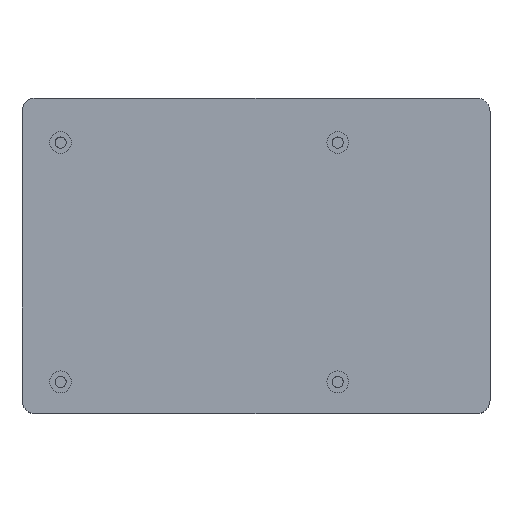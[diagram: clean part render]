
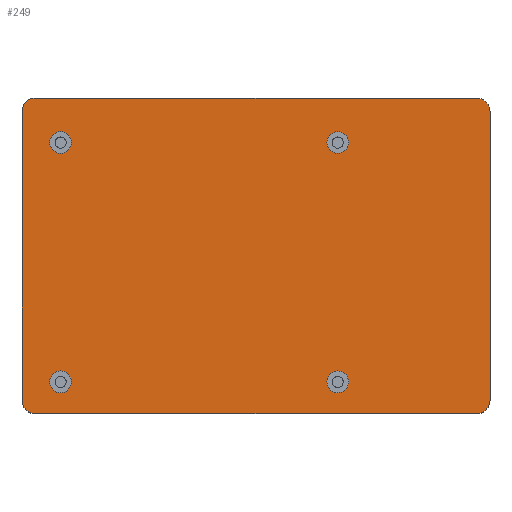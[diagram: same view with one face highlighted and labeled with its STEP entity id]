
A CAD part, top view. The second image highlights one B-rep face of the part: STEP entity #249.
In plain terms, the highlighted planar face has unit normal (0, 0, 1).
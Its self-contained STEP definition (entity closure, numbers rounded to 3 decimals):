
#42=B_SPLINE_CURVE_WITH_KNOTS('',3,(#2635,#2636,#2637,#2638),
 .UNSPECIFIED.,.F.,.F.,(4,4),(0.,1.),.UNSPECIFIED.);
#52=(
BOUNDED_CURVE()
B_SPLINE_CURVE(3,(#2581,#2582,#2583,#2584),.UNSPECIFIED.,.F.,.F.)
B_SPLINE_CURVE_WITH_KNOTS((4,4),(0.,1.),.UNSPECIFIED.)
CURVE()
GEOMETRIC_REPRESENTATION_ITEM()
RATIONAL_B_SPLINE_CURVE((0.586,0.471,0.471,
0.586))
REPRESENTATION_ITEM('')
);
#62=FACE_BOUND('',#505,.T.);
#63=FACE_BOUND('',#506,.T.);
#64=FACE_BOUND('',#507,.T.);
#65=FACE_BOUND('',#508,.T.);
#66=FACE_BOUND('',#509,.T.);
#249=ADVANCED_FACE('',(#62,#63,#64,#65,#66),#344,.T.);
#344=PLANE('',#1746);
#505=EDGE_LOOP('',(#912,#913,#914,#915,#916,#917,#918,#919));
#506=EDGE_LOOP('',(#920));
#507=EDGE_LOOP('',(#921));
#508=EDGE_LOOP('',(#922));
#509=EDGE_LOOP('',(#923));
#676=CIRCLE('',#1734,2.8);
#677=CIRCLE('',#1736,2.8);
#678=CIRCLE('',#1739,2.8);
#679=CIRCLE('',#1742,2.25);
#680=CIRCLE('',#1743,2.25);
#681=CIRCLE('',#1744,2.25);
#682=CIRCLE('',#1745,2.25);
#912=ORIENTED_EDGE('',*,*,#1380,.F.);
#913=ORIENTED_EDGE('',*,*,#1375,.F.);
#914=ORIENTED_EDGE('',*,*,#1373,.F.);
#915=ORIENTED_EDGE('',*,*,#1371,.F.);
#916=ORIENTED_EDGE('',*,*,#1381,.F.);
#917=ORIENTED_EDGE('',*,*,#1368,.F.);
#918=ORIENTED_EDGE('',*,*,#1366,.F.);
#919=ORIENTED_EDGE('',*,*,#1342,.F.);
#920=ORIENTED_EDGE('',*,*,#1382,.F.);
#921=ORIENTED_EDGE('',*,*,#1383,.F.);
#922=ORIENTED_EDGE('',*,*,#1384,.F.);
#923=ORIENTED_EDGE('',*,*,#1385,.F.);
#1175=VERTEX_POINT('',#2585);
#1176=VERTEX_POINT('',#2586);
#1189=VERTEX_POINT('',#2634);
#1190=VERTEX_POINT('',#2641);
#1191=VERTEX_POINT('',#2645);
#1192=VERTEX_POINT('',#2647);
#1193=VERTEX_POINT('',#2651);
#1194=VERTEX_POINT('',#2655);
#1199=VERTEX_POINT('',#2670);
#1200=VERTEX_POINT('',#2672);
#1201=VERTEX_POINT('',#2674);
#1202=VERTEX_POINT('',#2676);
#1342=EDGE_CURVE('',#1175,#1176,#52,.T.);
#1366=EDGE_CURVE('',#1176,#1189,#42,.T.);
#1368=EDGE_CURVE('',#1189,#1190,#676,.T.);
#1371=EDGE_CURVE('',#1192,#1191,#677,.T.);
#1373=EDGE_CURVE('',#1191,#1193,#1533,.T.);
#1375=EDGE_CURVE('',#1193,#1194,#678,.T.);
#1380=EDGE_CURVE('',#1194,#1175,#1539,.T.);
#1381=EDGE_CURVE('',#1190,#1192,#1540,.T.);
#1382=EDGE_CURVE('',#1199,#1199,#679,.T.);
#1383=EDGE_CURVE('',#1200,#1200,#680,.T.);
#1384=EDGE_CURVE('',#1201,#1201,#681,.T.);
#1385=EDGE_CURVE('',#1202,#1202,#682,.T.);
#1533=LINE('',#2652,#1629);
#1539=LINE('',#2667,#1635);
#1540=LINE('',#2668,#1636);
#1629=VECTOR('',#2063,1.);
#1635=VECTOR('',#2077,1.);
#1636=VECTOR('',#2078,1.);
#1734=AXIS2_PLACEMENT_3D('',#2642,#2052,#2053);
#1736=AXIS2_PLACEMENT_3D('',#2648,#2058,#2059);
#1739=AXIS2_PLACEMENT_3D('',#2656,#2067,#2068);
#1742=AXIS2_PLACEMENT_3D('',#2669,#2079,#2080);
#1743=AXIS2_PLACEMENT_3D('',#2671,#2081,#2082);
#1744=AXIS2_PLACEMENT_3D('',#2673,#2083,#2084);
#1745=AXIS2_PLACEMENT_3D('',#2675,#2085,#2086);
#1746=AXIS2_PLACEMENT_3D('',#2677,#2087,#2088);
#2052=DIRECTION('',(0.,0.,-1.));
#2053=DIRECTION('',(-1.,0.,0.));
#2058=DIRECTION('',(0.,0.,-1.));
#2059=DIRECTION('',(-1.,0.,0.));
#2063=DIRECTION('',(-1.,0.,0.));
#2067=DIRECTION('',(0.,0.,-1.));
#2068=DIRECTION('',(-1.,0.,0.));
#2077=DIRECTION('',(0.,1.,0.));
#2078=DIRECTION('',(0.,-1.,0.));
#2079=DIRECTION('',(0.,0.,1.));
#2080=DIRECTION('',(-1.,0.,0.));
#2081=DIRECTION('',(0.,0.,1.));
#2082=DIRECTION('',(-1.,0.,0.));
#2083=DIRECTION('',(0.,0.,1.));
#2084=DIRECTION('',(-1.,0.,0.));
#2085=DIRECTION('',(0.,0.,1.));
#2086=DIRECTION('',(-1.,0.,0.));
#2087=DIRECTION('',(0.,0.,1.));
#2088=DIRECTION('',(1.,0.,0.));
#2581=CARTESIAN_POINT('',(-2.,60.6,22.));
#2582=CARTESIAN_POINT('',(-2.,62.24,22.));
#2583=CARTESIAN_POINT('',(-0.84,63.4,22.));
#2584=CARTESIAN_POINT('',(0.8,63.4,22.));
#2585=CARTESIAN_POINT('',(-2.,60.6,22.));
#2586=CARTESIAN_POINT('',(0.8,63.4,22.));
#2634=CARTESIAN_POINT('',(92.2,63.4,22.));
#2635=CARTESIAN_POINT('',(0.8,63.4,22.));
#2636=CARTESIAN_POINT('',(31.267,63.4,22.));
#2637=CARTESIAN_POINT('',(61.733,63.4,22.));
#2638=CARTESIAN_POINT('',(92.2,63.4,22.));
#2641=CARTESIAN_POINT('',(95.,60.6,22.));
#2642=CARTESIAN_POINT('',(92.2,60.6,22.));
#2645=CARTESIAN_POINT('',(92.2,-2.,22.));
#2647=CARTESIAN_POINT('',(95.,0.8,22.));
#2648=CARTESIAN_POINT('',(92.2,0.8,22.));
#2651=CARTESIAN_POINT('',(0.8,-2.,22.));
#2652=CARTESIAN_POINT('',(92.2,-2.,22.));
#2655=CARTESIAN_POINT('',(-2.,0.8,22.));
#2656=CARTESIAN_POINT('',(0.8,0.8,22.));
#2667=CARTESIAN_POINT('',(-2.,0.8,22.));
#2668=CARTESIAN_POINT('',(95.,60.6,22.));
#2669=CARTESIAN_POINT('',(63.45,4.6,22.));
#2670=CARTESIAN_POINT('',(61.2,4.6,22.));
#2671=CARTESIAN_POINT('',(6.,54.2,22.));
#2672=CARTESIAN_POINT('',(3.75,54.2,22.));
#2673=CARTESIAN_POINT('',(6.,4.6,22.));
#2674=CARTESIAN_POINT('',(3.75,4.6,22.));
#2675=CARTESIAN_POINT('',(63.45,54.2,22.));
#2676=CARTESIAN_POINT('',(61.2,54.2,22.));
#2677=CARTESIAN_POINT('',(-1.18,62.58,22.));
